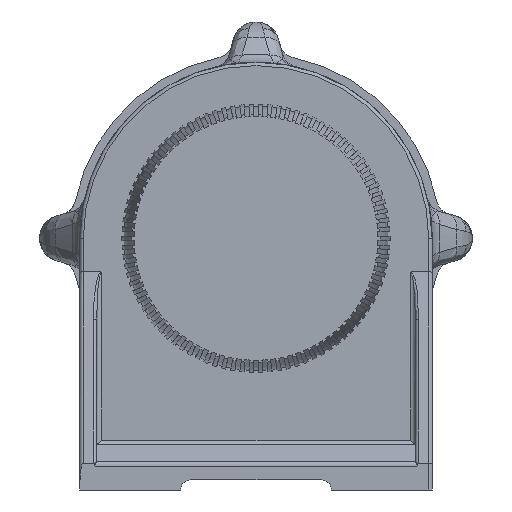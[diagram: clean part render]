
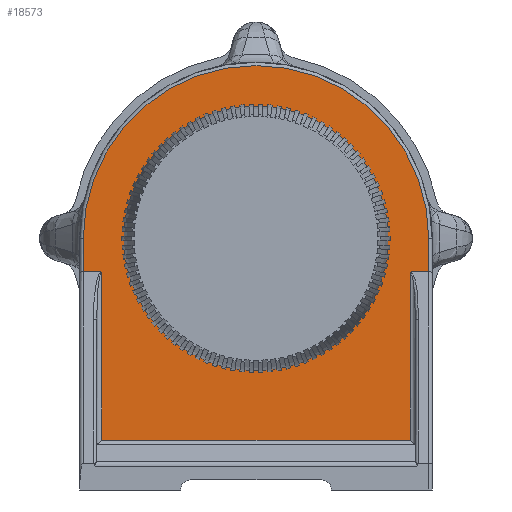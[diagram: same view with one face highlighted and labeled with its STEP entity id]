
A CAD part, left-side view. The second image highlights one B-rep face of the part: STEP entity #18573.
In plain terms, the highlighted planar face has unit normal (-1, 0, 0).
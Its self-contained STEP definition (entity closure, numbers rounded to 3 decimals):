
#280=FACE_BOUND('',#2570,.T.);
#630=PLANE('',#20026);
#1550=FACE_OUTER_BOUND('',#2569,.T.);
#2569=EDGE_LOOP('',(#14336,#14337,#14338,#14339,#14340,#14341,#14342,#14343,
#14344,#14345));
#2570=EDGE_LOOP('',(#14346));
#3327=B_SPLINE_CURVE_WITH_KNOTS('',3,(#31509,#31510,#31511,#31512,#31513,
#31514,#31515,#31516,#31517,#31518),.UNSPECIFIED.,.F.,.F.,(4,2,2,2,4),(0.,
0.002,0.017,0.029,0.029),
 .UNSPECIFIED.);
#3328=B_SPLINE_CURVE_WITH_KNOTS('',3,(#31562,#31563,#31564,#31565,#31566,
#31567,#31568,#31569),.UNSPECIFIED.,.F.,.F.,(4,2,2,4),(0.,
0.,0.015,0.038),.UNSPECIFIED.);
#4073=CIRCLE('',#19903,15.);
#4110=CIRCLE('',#19992,51.5);
#5360=LINE('',#31354,#6485);
#5361=LINE('',#31357,#6486);
#5362=LINE('',#31362,#6487);
#5364=LINE('',#31397,#6489);
#5368=LINE('',#31410,#6493);
#5369=LINE('',#31418,#6494);
#5379=LINE('',#31531,#6504);
#6485=VECTOR('',#23442,10.);
#6486=VECTOR('',#23445,10.);
#6487=VECTOR('',#23452,10.);
#6489=VECTOR('',#23460,10.);
#6493=VECTOR('',#23474,10.);
#6494=VECTOR('',#23487,10.);
#6504=VECTOR('',#23557,10.);
#7774=VERTEX_POINT('',#31079);
#7848=VERTEX_POINT('',#31350);
#7849=VERTEX_POINT('',#31352);
#7850=VERTEX_POINT('',#31356);
#7851=VERTEX_POINT('',#31360);
#7854=VERTEX_POINT('',#31393);
#7856=VERTEX_POINT('',#31396);
#7859=VERTEX_POINT('',#31407);
#7860=VERTEX_POINT('',#31409);
#7861=VERTEX_POINT('',#31414);
#7871=VERTEX_POINT('',#31528);
#9984=EDGE_CURVE('',#7774,#7774,#4073,.T.);
#10092=EDGE_CURVE('',#7849,#7848,#5360,.T.);
#10093=EDGE_CURVE('',#7850,#7849,#5361,.T.);
#10096=EDGE_CURVE('',#7851,#7850,#5362,.T.);
#10101=EDGE_CURVE('',#7856,#7854,#5364,.T.);
#10108=EDGE_CURVE('',#7859,#7860,#5368,.T.);
#10112=EDGE_CURVE('',#7861,#7859,#4110,.T.);
#10113=EDGE_CURVE('',#7856,#7861,#5369,.T.);
#10133=EDGE_CURVE('',#7848,#7854,#3327,.F.);
#10140=EDGE_CURVE('',#7871,#7860,#5379,.T.);
#10141=EDGE_CURVE('',#7871,#7851,#3328,.F.);
#14336=ORIENTED_EDGE('',*,*,#10108,.F.);
#14337=ORIENTED_EDGE('',*,*,#10112,.F.);
#14338=ORIENTED_EDGE('',*,*,#10113,.F.);
#14339=ORIENTED_EDGE('',*,*,#10101,.T.);
#14340=ORIENTED_EDGE('',*,*,#10133,.F.);
#14341=ORIENTED_EDGE('',*,*,#10092,.F.);
#14342=ORIENTED_EDGE('',*,*,#10093,.F.);
#14343=ORIENTED_EDGE('',*,*,#10096,.F.);
#14344=ORIENTED_EDGE('',*,*,#10141,.F.);
#14345=ORIENTED_EDGE('',*,*,#10140,.T.);
#14346=ORIENTED_EDGE('',*,*,#9984,.T.);
#18573=ADVANCED_FACE('',(#1550,#280),#630,.F.);
#19903=AXIS2_PLACEMENT_3D('',#31080,#23236,#23237);
#19992=AXIS2_PLACEMENT_3D('',#31416,#23483,#23484);
#20026=AXIS2_PLACEMENT_3D('',#31572,#23562,#23563);
#23236=DIRECTION('center_axis',(1.,0.,0.));
#23237=DIRECTION('ref_axis',(0.,0.,-1.));
#23442=DIRECTION('',(0.,0.,1.));
#23445=DIRECTION('',(0.,1.,0.));
#23452=DIRECTION('',(0.,0.,-1.));
#23460=DIRECTION('',(0.,-1.,0.));
#23474=DIRECTION('',(0.,0.,-1.));
#23483=DIRECTION('center_axis',(1.,0.,0.));
#23484=DIRECTION('ref_axis',(0.,0.,1.));
#23487=DIRECTION('',(0.,0.,1.));
#23557=DIRECTION('',(0.,-1.,0.));
#23562=DIRECTION('center_axis',(1.,0.,0.));
#23563=DIRECTION('ref_axis',(0.,1.,0.));
#31079=CARTESIAN_POINT('',(-108.,0.,15.));
#31080=CARTESIAN_POINT('Origin',(-108.,0.,0.));
#31350=CARTESIAN_POINT('',(-108.,46.,-10.087));
#31352=CARTESIAN_POINT('',(-108.,46.,-60.151));
#31354=CARTESIAN_POINT('',(-108.,46.,-19.849));
#31356=CARTESIAN_POINT('',(-108.,-46.,-60.151));
#31357=CARTESIAN_POINT('',(-108.,26.25,-60.151));
#31360=CARTESIAN_POINT('',(-108.,-46.,-10.087));
#31362=CARTESIAN_POINT('',(-108.,-46.,-19.849));
#31393=CARTESIAN_POINT('',(-108.,46.274,-10.));
#31396=CARTESIAN_POINT('',(-108.,51.5,-10.));
#31397=CARTESIAN_POINT('',(-108.,26.25,-10.));
#31407=CARTESIAN_POINT('',(-108.,-51.5,0.));
#31409=CARTESIAN_POINT('',(-108.,-51.5,-10.));
#31410=CARTESIAN_POINT('',(-108.,-51.5,0.));
#31414=CARTESIAN_POINT('',(-108.,51.5,0.));
#31416=CARTESIAN_POINT('Origin',(-108.,0.,0.));
#31418=CARTESIAN_POINT('',(-108.,51.5,-37.5));
#31509=CARTESIAN_POINT('Ctrl Pts',(-108.,46.274,-10.));
#31510=CARTESIAN_POINT('Ctrl Pts',(-108.,46.268,-10.));
#31511=CARTESIAN_POINT('Ctrl Pts',(-108.,46.262,-10.));
#31512=CARTESIAN_POINT('Ctrl Pts',(-108.,46.204,-10.002));
#31513=CARTESIAN_POINT('Ctrl Pts',(-108.,46.152,-10.011));
#31514=CARTESIAN_POINT('Ctrl Pts',(-108.,46.066,-10.042));
#31515=CARTESIAN_POINT('Ctrl Pts',(-108.,46.032,-10.061));
#31516=CARTESIAN_POINT('Ctrl Pts',(-108.,46.001,-10.087));
#31517=CARTESIAN_POINT('Ctrl Pts',(-108.,46.,-10.087));
#31518=CARTESIAN_POINT('Ctrl Pts',(-108.,46.,-10.087));
#31528=CARTESIAN_POINT('',(-108.,-46.274,-10.));
#31531=CARTESIAN_POINT('',(-108.,-26.25,-10.));
#31562=CARTESIAN_POINT('Ctrl Pts',(-108.,-46.,-10.087));
#31563=CARTESIAN_POINT('Ctrl Pts',(-108.,-46.,-10.087));
#31564=CARTESIAN_POINT('Ctrl Pts',(-108.,-46.001,-10.087));
#31565=CARTESIAN_POINT('Ctrl Pts',(-108.,-46.041,-10.054));
#31566=CARTESIAN_POINT('Ctrl Pts',(-108.,-46.082,-10.036));
#31567=CARTESIAN_POINT('Ctrl Pts',(-108.,-46.166,-10.007));
#31568=CARTESIAN_POINT('Ctrl Pts',(-108.,-46.22,-10.));
#31569=CARTESIAN_POINT('Ctrl Pts',(-108.,-46.274,-10.));
#31572=CARTESIAN_POINT('Origin',(-108.,0.,0.));
